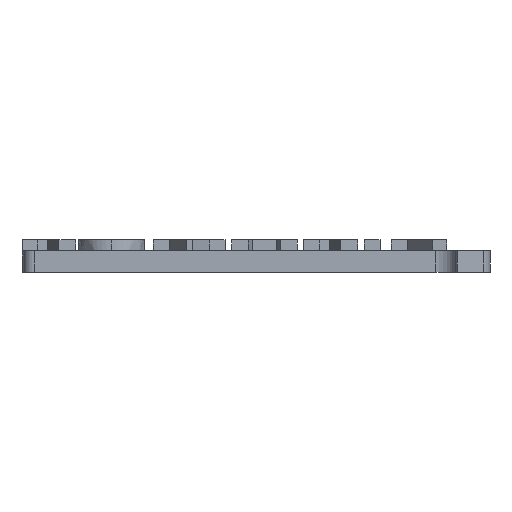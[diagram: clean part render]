
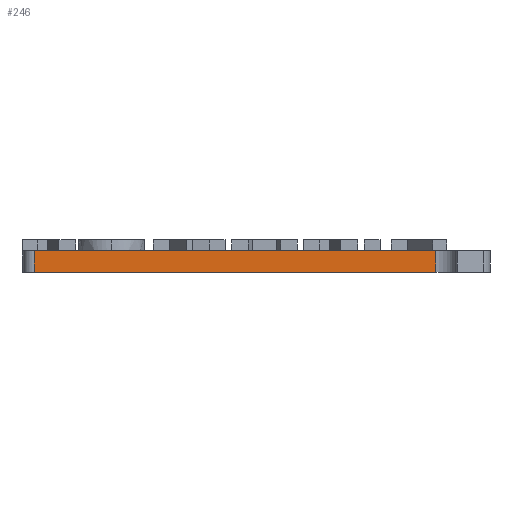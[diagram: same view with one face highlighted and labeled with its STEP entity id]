
A CAD part, front view. The second image highlights one B-rep face of the part: STEP entity #246.
In plain terms, the highlighted planar face has unit normal (0, -1, 0).
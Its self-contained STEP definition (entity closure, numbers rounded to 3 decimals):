
#246=ADVANCED_FACE('',(#538),#539,.T.);
#538=FACE_OUTER_BOUND('',#878,.T.);
#539=PLANE('',#879);
#878=EDGE_LOOP('',(#1673,#1674,#1675,#1676));
#879=AXIS2_PLACEMENT_3D('',#1677,#1678,#1679);
#1673=ORIENTED_EDGE('',*,*,#2435,.T.);
#1674=ORIENTED_EDGE('',*,*,#2503,.T.);
#1675=ORIENTED_EDGE('',*,*,#2482,.F.);
#1676=ORIENTED_EDGE('',*,*,#2504,.T.);
#1677=CARTESIAN_POINT('',(-23.0,-3.0,0.0));
#1678=DIRECTION('',(0.,-1.0,0.0));
#1679=DIRECTION('',(1.0,0.,0.0));
#2435=EDGE_CURVE('',#3017,#3015,#3018,.T.);
#2482=EDGE_CURVE('',#3093,#3095,#3096,.T.);
#2503=EDGE_CURVE('',#3015,#3095,#3131,.T.);
#2504=EDGE_CURVE('',#3093,#3017,#3132,.F.);
#3015=VERTEX_POINT('',#3908);
#3017=VERTEX_POINT('',#3910);
#3018=LINE('',#3911,#3912);
#3093=VERTEX_POINT('',#4078);
#3095=VERTEX_POINT('',#4080);
#3096=LINE('',#4081,#4082);
#3131=LINE('',#4132,#4133);
#3132=LINE('',#4134,#4135);
#3908=CARTESIAN_POINT('',(-5.0,-3.0,0.0));
#3910=CARTESIAN_POINT('',(-42.0,-3.0,0.0));
#3911=CARTESIAN_POINT('',(-23.0,-3.0,0.0));
#3912=VECTOR('',#4577,1.0);
#4078=CARTESIAN_POINT('',(-42.0,-3.0,2.0));
#4080=CARTESIAN_POINT('',(-5.0,-3.0,2.0));
#4081=CARTESIAN_POINT('',(-23.0,-3.0,2.0));
#4082=VECTOR('',#4615,1.0);
#4132=CARTESIAN_POINT('',(-5.0,-3.0,2.0));
#4133=VECTOR('',#4640,1.0);
#4134=CARTESIAN_POINT('',(-42.0,-3.0,0.0));
#4135=VECTOR('',#4641,1.0);
#4577=DIRECTION('',(1.0,0.,0.0));
#4615=DIRECTION('',(1.0,0.,0.0));
#4640=DIRECTION('',(0.0,0.0,1.0));
#4641=DIRECTION('',(0.0,0.0,1.0));
